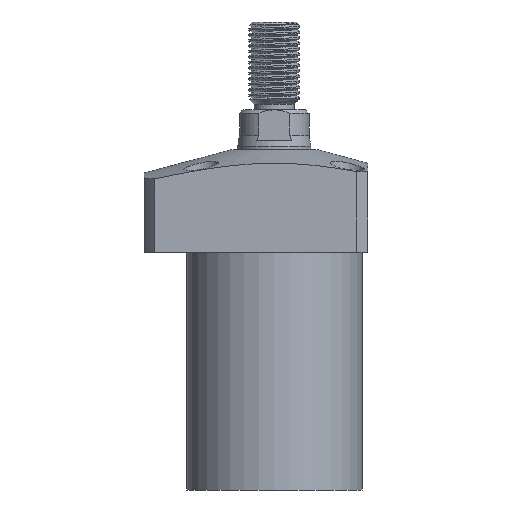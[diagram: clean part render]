
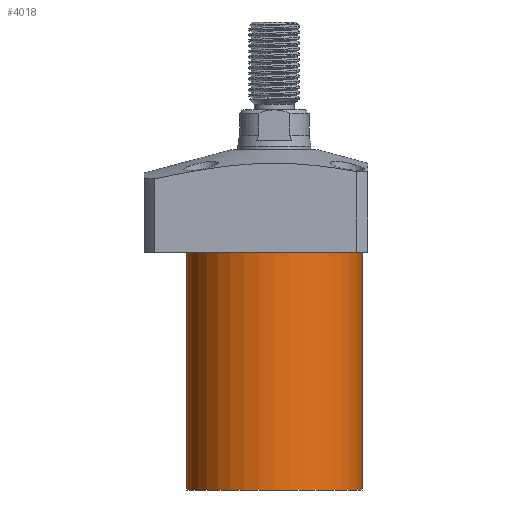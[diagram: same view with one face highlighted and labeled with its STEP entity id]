
A CAD part, front view. The second image highlights one B-rep face of the part: STEP entity #4018.
In plain terms, the highlighted cylindrical face has radius 24 mm (diameter 48 mm), a partial arc.
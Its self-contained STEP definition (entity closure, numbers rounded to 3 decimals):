
#28 = CARTESIAN_POINT ( 'NONE',  ( -24., 0., -79. ) ) ;
#695 = AXIS2_PLACEMENT_3D ( 'NONE', #2398, #1930, #1948 ) ;
#714 = DIRECTION ( 'NONE',  ( 1., 0., 0. ) ) ;
#721 = DIRECTION ( 'NONE',  ( 0., 0., 1. ) ) ;
#1310 = CIRCLE ( 'NONE', #4829, 24. ) ;
#1370 = CARTESIAN_POINT ( 'NONE',  ( -24., 0., -14. ) ) ;
#1622 = CYLINDRICAL_SURFACE ( 'NONE', #3278, 24. ) ;
#1758 = CARTESIAN_POINT ( 'NONE',  ( 24., 0., -79. ) ) ;
#1890 = DIRECTION ( 'NONE',  ( 0., 0., -1. ) ) ;
#1930 = DIRECTION ( 'NONE',  ( 0., 0., -1. ) ) ;
#1948 = DIRECTION ( 'NONE',  ( -1., 0., 0. ) ) ;
#2134 = EDGE_CURVE ( 'NONE', #3663, #4348, #1310, .T. ) ;
#2207 = LINE ( 'NONE', #2348, #2950 ) ;
#2348 = CARTESIAN_POINT ( 'NONE',  ( -24., 0., -79. ) ) ;
#2398 = CARTESIAN_POINT ( 'NONE',  ( 0., 0., -79. ) ) ;
#2613 = EDGE_CURVE ( 'NONE', #4035, #2851, #3022, .T. ) ;
#2640 = LINE ( 'NONE', #1758, #4779 ) ;
#2851 = VERTEX_POINT ( 'NONE', #28 ) ;
#2950 = VECTOR ( 'NONE', #721, 1000. ) ;
#3022 = CIRCLE ( 'NONE', #695, 24. ) ;
#3093 = CARTESIAN_POINT ( 'NONE',  ( 0., 0., -14. ) ) ;
#3108 = EDGE_CURVE ( 'NONE', #4035, #3663, #2640, .T. ) ;
#3278 = AXIS2_PLACEMENT_3D ( 'NONE', #4357, #3931, #714 ) ;
#3412 = ORIENTED_EDGE ( 'NONE', *, *, #3421, .F. ) ;
#3421 = EDGE_CURVE ( 'NONE', #2851, #4348, #2207, .T. ) ;
#3479 = ORIENTED_EDGE ( 'NONE', *, *, #2134, .T. ) ;
#3548 = ORIENTED_EDGE ( 'NONE', *, *, #3108, .T. ) ;
#3655 = EDGE_LOOP ( 'NONE', ( #3412, #4243, #3548, #3479 ) ) ;
#3663 = VERTEX_POINT ( 'NONE', #4450 ) ;
#3931 = DIRECTION ( 'NONE',  ( 0., 0., 1. ) ) ;
#3965 = CARTESIAN_POINT ( 'NONE',  ( 24., 0., -79. ) ) ;
#4018 = ADVANCED_FACE ( 'NONE', ( #4955 ), #1622, .T. ) ;
#4035 = VERTEX_POINT ( 'NONE', #3965 ) ;
#4243 = ORIENTED_EDGE ( 'NONE', *, *, #2613, .F. ) ;
#4309 = DIRECTION ( 'NONE',  ( 1., 0., 0. ) ) ;
#4348 = VERTEX_POINT ( 'NONE', #1370 ) ;
#4357 = CARTESIAN_POINT ( 'NONE',  ( 0., 0., -79. ) ) ;
#4450 = CARTESIAN_POINT ( 'NONE',  ( 24., 0., -14. ) ) ;
#4580 = DIRECTION ( 'NONE',  ( 0., 0., 1. ) ) ;
#4779 = VECTOR ( 'NONE', #4580, 1000. ) ;
#4829 = AXIS2_PLACEMENT_3D ( 'NONE', #3093, #1890, #4309 ) ;
#4955 = FACE_OUTER_BOUND ( 'NONE', #3655, .T. ) ;
